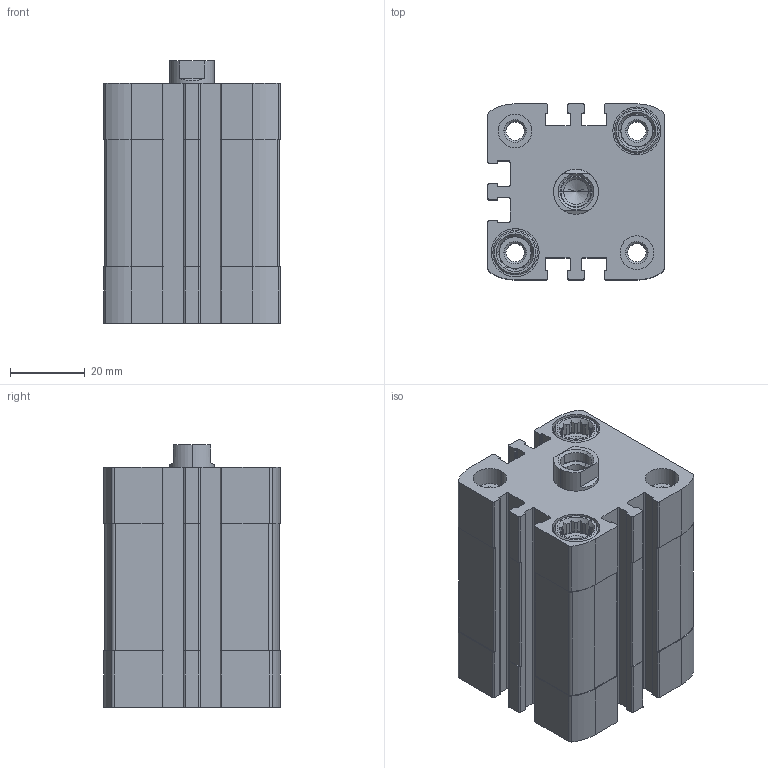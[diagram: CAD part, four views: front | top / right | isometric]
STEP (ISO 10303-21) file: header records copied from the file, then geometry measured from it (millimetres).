
FILE_DESCRIPTION (( 'STEP AP203' ), '1' );
FILE_NAME ('CCN32-20F.STEP', '2017-03-29T11:26:09', ( '' ), ( '' ), 'SwSTEP 2.0', 'SolidWorks 2016', '' );
FILE_SCHEMA (( 'CONFIG_CONTROL_DESIGN' ));
Length unit declared in the file: millimetre
Products named in the file (3): CCN-20-_(KS); CCN32-20F; CCN-20---(Z)
Assembly tree (2 placements, depth 2):
  CCN32-20F
    CCN-20---(Z)
    CCN-20-_(KS)
Bounding box: 47 x 47 x 70 mm (x, y, z)
Volume: 101190 mm3; surface area: 37550.1 mm2
Topology: 2 solids, 2 shells, 479 faces, 1302 edges, 857 vertices
Faces by surface type: plane 267, cylinder 170, cone 42
Entity records: 15629 total; most frequent: CARTESIAN_POINT 2935, DIRECTION 2660, ORIENTED_EDGE 2600, EDGE_CURVE 1300, AXIS2_PLACEMENT_3D 974, VERTEX_POINT 857, LINE 712, VECTOR 712
